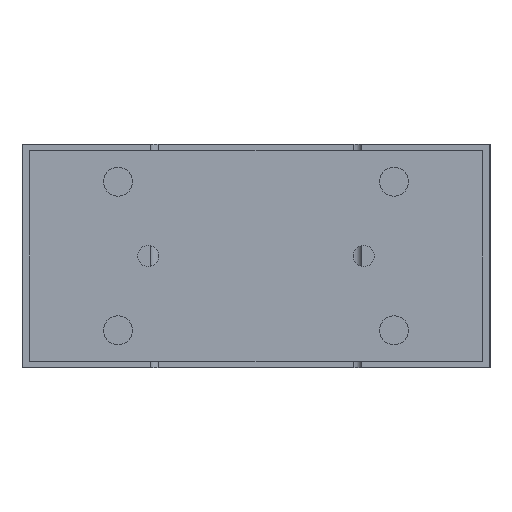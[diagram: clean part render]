
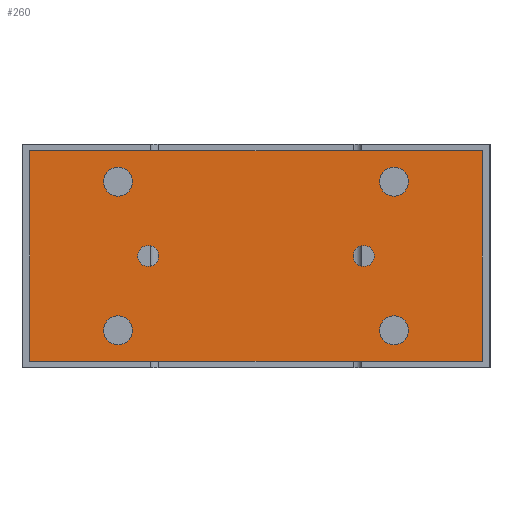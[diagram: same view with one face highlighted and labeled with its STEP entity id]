
A CAD part, left-side view. The second image highlights one B-rep face of the part: STEP entity #260.
In plain terms, the highlighted planar face has unit normal (-1, 0, 0).
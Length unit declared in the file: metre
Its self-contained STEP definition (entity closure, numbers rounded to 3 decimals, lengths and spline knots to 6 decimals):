
#260 = ADVANCED_FACE( '', ( #713, #714, #715, #716, #717, #718, #719 ), #720, .T. );
#713 = FACE_BOUND( '', #1513, .T. );
#714 = FACE_BOUND( '', #1514, .T. );
#715 = FACE_BOUND( '', #1515, .T. );
#716 = FACE_BOUND( '', #1516, .T. );
#717 = FACE_BOUND( '', #1517, .T. );
#718 = FACE_BOUND( '', #1518, .T. );
#719 = FACE_OUTER_BOUND( '', #1519, .T. );
#720 = PLANE( '', #1520 );
#1513 = EDGE_LOOP( '', ( #2339 ) );
#1514 = EDGE_LOOP( '', ( #2340 ) );
#1515 = EDGE_LOOP( '', ( #2341 ) );
#1516 = EDGE_LOOP( '', ( #2342 ) );
#1517 = EDGE_LOOP( '', ( #2343 ) );
#1518 = EDGE_LOOP( '', ( #2344 ) );
#1519 = EDGE_LOOP( '', ( #2345, #2346, #2347, #2348 ) );
#1520 = AXIS2_PLACEMENT_3D( '', #2349, #2350, #2351 );
#2339 = ORIENTED_EDGE( '', *, *, #3849, .F. );
#2340 = ORIENTED_EDGE( '', *, *, #3850, .F. );
#2341 = ORIENTED_EDGE( '', *, *, #3851, .F. );
#2342 = ORIENTED_EDGE( '', *, *, #3852, .F. );
#2343 = ORIENTED_EDGE( '', *, *, #3824, .F. );
#2344 = ORIENTED_EDGE( '', *, *, #3853, .T. );
#2345 = ORIENTED_EDGE( '', *, *, #3854, .T. );
#2346 = ORIENTED_EDGE( '', *, *, #3820, .T. );
#2347 = ORIENTED_EDGE( '', *, *, #3855, .T. );
#2348 = ORIENTED_EDGE( '', *, *, #3856, .T. );
#2349 = CARTESIAN_POINT( '', ( -0.118, -0.086, -0.0025 ) );
#2350 = DIRECTION( '', ( -1., 0., 0. ) );
#2351 = DIRECTION( '', ( 0., 0., 1. ) );
#3820 = EDGE_CURVE( '', #4394, #4392, #4395, .T. );
#3824 = EDGE_CURVE( '', #4400, #4400, #4401, .T. );
#3849 = EDGE_CURVE( '', #4444, #4444, #4445, .T. );
#3850 = EDGE_CURVE( '', #4446, #4446, #4447, .T. );
#3851 = EDGE_CURVE( '', #4448, #4448, #4449, .T. );
#3852 = EDGE_CURVE( '', #4450, #4450, #4451, .T. );
#3853 = EDGE_CURVE( '', #4452, #4452, #4453, .T. );
#3854 = EDGE_CURVE( '', #4454, #4394, #4455, .T. );
#3855 = EDGE_CURVE( '', #4392, #4456, #4457, .T. );
#3856 = EDGE_CURVE( '', #4456, #4454, #4458, .T. );
#4392 = VERTEX_POINT( '', #5228 );
#4394 = VERTEX_POINT( '', #5231 );
#4395 = LINE( '', #5232, #5233 );
#4400 = VERTEX_POINT( '', #5239 );
#4401 = CIRCLE( '', #5240, 0.004 );
#4444 = VERTEX_POINT( '', #5300 );
#4445 = CIRCLE( '', #5301, 0.0055 );
#4446 = VERTEX_POINT( '', #5302 );
#4447 = CIRCLE( '', #5303, 0.0055 );
#4448 = VERTEX_POINT( '', #5304 );
#4449 = CIRCLE( '', #5305, 0.0055 );
#4450 = VERTEX_POINT( '', #5306 );
#4451 = CIRCLE( '', #5307, 0.0055 );
#4452 = VERTEX_POINT( '', #5308 );
#4453 = CIRCLE( '', #5309, 0.004 );
#4454 = VERTEX_POINT( '', #5310 );
#4455 = LINE( '', #5311, #5312 );
#4456 = VERTEX_POINT( '', #5313 );
#4457 = LINE( '', #5314, #5315 );
#4458 = LINE( '', #5316, #5317 );
#5228 = CARTESIAN_POINT( '', ( -0.118, 0.086, -0.0025 ) );
#5231 = CARTESIAN_POINT( '', ( -0.118, -0.086, -0.0025 ) );
#5232 = CARTESIAN_POINT( '', ( -0.118, -0.086, -0.0025 ) );
#5233 = VECTOR( '', #6515, 1. );
#5239 = CARTESIAN_POINT( '', ( -0.118, -0.037, -0.0425 ) );
#5240 = AXIS2_PLACEMENT_3D( '', #6520, #6521, #6522 );
#5300 = CARTESIAN_POINT( '', ( -0.118, -0.0525, -0.06525 ) );
#5301 = AXIS2_PLACEMENT_3D( '', #6546, #6547, #6548 );
#5302 = CARTESIAN_POINT( '', ( -0.118, 0.0525, -0.06525 ) );
#5303 = AXIS2_PLACEMENT_3D( '', #6549, #6550, #6551 );
#5304 = CARTESIAN_POINT( '', ( -0.118, -0.0525, -0.00875 ) );
#5305 = AXIS2_PLACEMENT_3D( '', #6552, #6553, #6554 );
#5306 = CARTESIAN_POINT( '', ( -0.118, 0.0525, -0.00875 ) );
#5307 = AXIS2_PLACEMENT_3D( '', #6555, #6556, #6557 );
#5308 = CARTESIAN_POINT( '', ( -0.118, 0.037, -0.0425 ) );
#5309 = AXIS2_PLACEMENT_3D( '', #6558, #6559, #6560 );
#5310 = CARTESIAN_POINT( '', ( -0.118, -0.086, -0.0825 ) );
#5311 = CARTESIAN_POINT( '', ( -0.118, -0.086, -0.0825 ) );
#5312 = VECTOR( '', #6561, 1. );
#5313 = CARTESIAN_POINT( '', ( -0.118, 0.086, -0.0825 ) );
#5314 = CARTESIAN_POINT( '', ( -0.118, 0.086, -0.0025 ) );
#5315 = VECTOR( '', #6562, 1. );
#5316 = CARTESIAN_POINT( '', ( -0.118, 0.086, -0.0825 ) );
#5317 = VECTOR( '', #6563, 1. );
#6515 = DIRECTION( '', ( 0., 1., 0. ) );
#6520 = CARTESIAN_POINT( '', ( -0.118, -0.041, -0.0425 ) );
#6521 = DIRECTION( '', ( -1., 0., 0. ) );
#6522 = DIRECTION( '', ( 0., 1., 0. ) );
#6546 = CARTESIAN_POINT( '', ( -0.118, -0.0525, -0.07075 ) );
#6547 = DIRECTION( '', ( -1., 0., 0. ) );
#6548 = DIRECTION( '', ( 0., 0., 1. ) );
#6549 = CARTESIAN_POINT( '', ( -0.118, 0.0525, -0.07075 ) );
#6550 = DIRECTION( '', ( -1., 0., 0. ) );
#6551 = DIRECTION( '', ( 0., 0., 1. ) );
#6552 = CARTESIAN_POINT( '', ( -0.118, -0.0525, -0.01425 ) );
#6553 = DIRECTION( '', ( -1., 0., 0. ) );
#6554 = DIRECTION( '', ( 0., 0., 1. ) );
#6555 = CARTESIAN_POINT( '', ( -0.118, 0.0525, -0.01425 ) );
#6556 = DIRECTION( '', ( -1., 0., 0. ) );
#6557 = DIRECTION( '', ( 0., 0., 1. ) );
#6558 = CARTESIAN_POINT( '', ( -0.118, 0.041, -0.0425 ) );
#6559 = DIRECTION( '', ( 1., 0., 0. ) );
#6560 = DIRECTION( '', ( 0., -1., 0. ) );
#6561 = DIRECTION( '', ( 0., 0., 1. ) );
#6562 = DIRECTION( '', ( 0., 0., -1. ) );
#6563 = DIRECTION( '', ( 0., -1., 0. ) );
